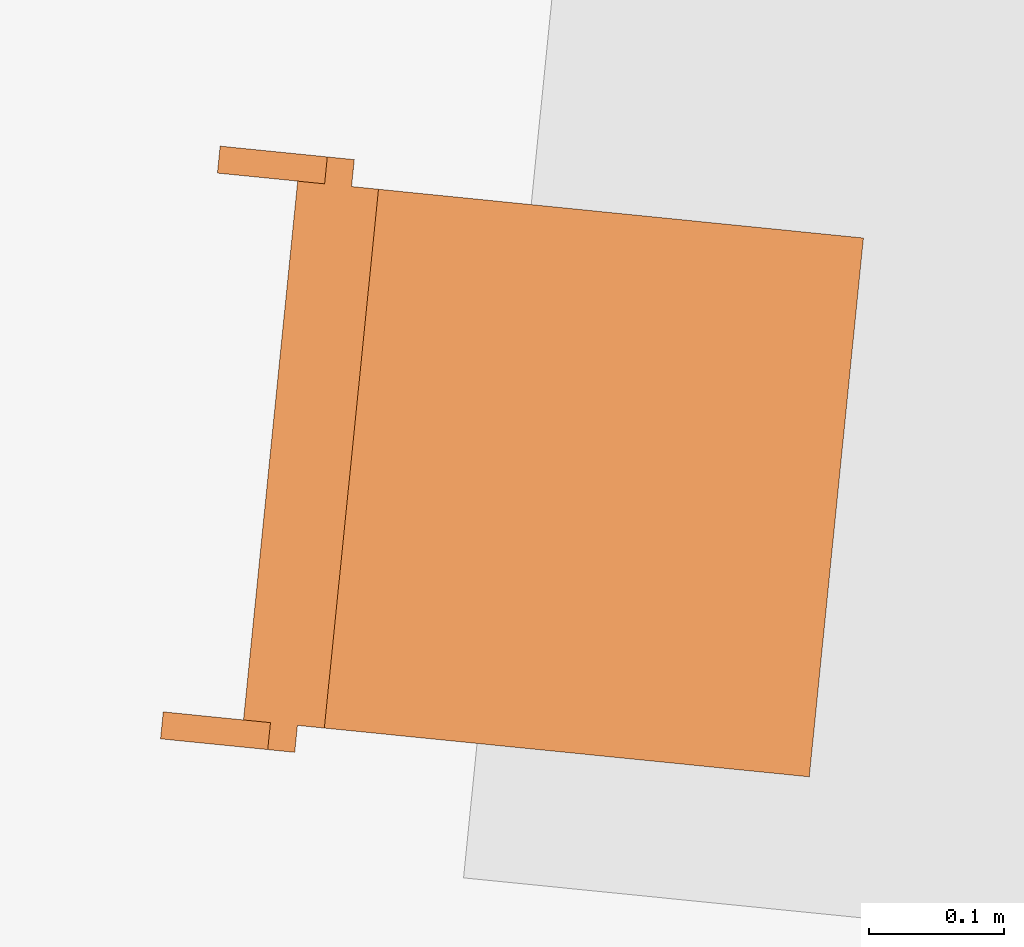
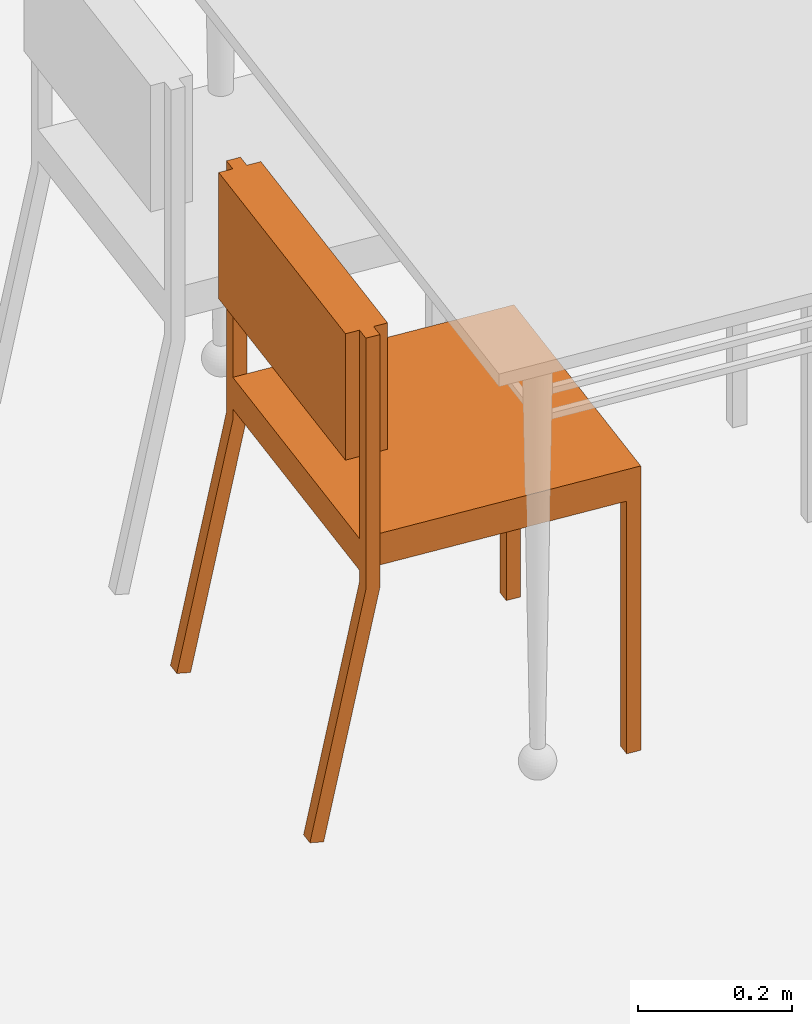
# One storey, part 158 of 164: 1 proxy.
"""IFC2X3 building model written with IfcOpenShell, lengths in millimetres."""

import ifcopenshell
import ifcopenshell.guid

model = None  # the IFC model being written
_history = None  # IfcOwnerHistory: only IFC2X3 demands one
_inside = {}  # id of a spatial element -> (the spatial element, [elements in it])
_under = {}  # id of a project, library or spatial element -> (it, [spatial elements below it])
_declared = {}  # id of a project -> (the project, [libraries it declares])
_typed = {}  # id of a type object -> (the type object, [elements of that type])
_made_of = {}  # id of a material, layer set ... -> (it, [elements and type objects made of it])


def new_model(schema):
    """Start an empty IFC model of exactly this schema.

    Asked for "IFC4X3", IfcOpenShell would pick the latest addendum, in which some entities
    have other attributes; the version numbers below select the first issue.
    IFC2X3 requires an IfcOwnerHistory on every rooted entity: one is made here for all.
    """
    global model, _history
    if schema == "IFC4X3":
        model = ifcopenshell.file(schema_version=(4, 3, 0, 0))
    else:
        model = ifcopenshell.file(schema=schema)
    _inside.clear()
    _under.clear()
    _declared.clear()
    _typed.clear()
    _made_of.clear()
    _history = None
    if model.schema == "IFC2X3":
        org = make("IfcOrganization", Name="unknown")
        user = make(
            "IfcPersonAndOrganization",
            ThePerson=make("IfcPerson", FamilyName="unknown"),
            TheOrganization=org,
        )
        app = make(
            "IfcApplication",
            ApplicationDeveloper=org,
            Version="unknown",
            ApplicationFullName="unknown",
            ApplicationIdentifier="unknown",
        )
        _history = make(
            "IfcOwnerHistory",
            OwningUser=user,
            OwningApplication=app,
            ChangeAction="ADDED",
            CreationDate=0,
        )
    return model


def make(cls, **values):
    """One entity of the class cls with the attributes given. An attribute that is None is left unset."""
    return model.create_entity(
        cls, **{name: value for name, value in values.items() if value is not None}
    )


def entity(cls, *values):
    """Any entity or typed value of the class cls, its attributes in the order of the schema. None: left unset."""
    e = model.create_entity(cls)
    for i, value in enumerate(values):
        if value is not None:
            e[i] = value
    return e


def rooted(cls, **values):
    """An entity with a GlobalId (a new one), such as an element, a storey or a relation."""
    return make(cls, GlobalId=ifcopenshell.guid.new(), OwnerHistory=_history, **values)


def si_unit(unit_type, name, prefix=None):
    """IfcSIUnit, for example si_unit("LENGTHUNIT", "METRE", prefix="MILLI")."""
    return make("IfcSIUnit", UnitType=unit_type, Prefix=prefix, Name=name)


def converted_unit(unit_type, name, factor, base, dimensions=None, offset=None):
    """IfcConversionBasedUnit, such as the inch: factor (a typed value) times the base unit."""
    return make(
        "IfcConversionBasedUnit"
        if offset is None
        else "IfcConversionBasedUnitWithOffset",
        ConversionOffset=offset,
        Dimensions=None
        if dimensions is None
        else entity("IfcDimensionalExponents", *dimensions),
        UnitType=unit_type,
        Name=name,
        ConversionFactor=make(
            "IfcMeasureWithUnit", ValueComponent=factor, UnitComponent=base
        ),
    )


def derived_unit(unit_type, elements):
    """IfcDerivedUnit: a product of units, each with its exponent."""
    return make(
        "IfcDerivedUnit",
        Elements=[
            make("IfcDerivedUnitElement", Unit=unit, Exponent=power)
            for unit, power in elements
        ],
        UnitType=unit_type,
    )


def money_unit(currency):
    """IfcMonetaryUnit."""
    return make("IfcMonetaryUnit", Currency=currency)


def assignment(units):
    """IfcUnitAssignment: the units of a project."""
    return None if units is None else make("IfcUnitAssignment", Units=units)


def point(xyz):
    """IfcCartesianPoint."""
    return None if xyz is None else make("IfcCartesianPoint", Coordinates=xyz)


def direction(xyz):
    """IfcDirection."""
    return None if xyz is None else make("IfcDirection", DirectionRatios=xyz)


def frame(location, z_axis=None, x_axis=None):
    """IfcAxis2Placement3D, a coordinate frame: its origin and axes. An axis left out is left unset."""
    return make(
        "IfcAxis2Placement3D",
        Location=point(location),
        Axis=direction(z_axis),
        RefDirection=direction(x_axis),
    )


def origin_with_axes():
    """The frame at (0, 0, 0) with the z axis (0, 0, 1) and the x axis (1, 0, 0) written out."""
    return frame((0.0, 0.0, 0.0), z_axis=(0.0, 0.0, 1.0), x_axis=(1.0, 0.0, 0.0))


def place(relative_to, where):
    """IfcLocalPlacement: puts the frame where relative to a parent placement (None: the world)."""
    return make(
        "IfcLocalPlacement", PlacementRelTo=relative_to, RelativePlacement=where
    )


def context(
    kind, dimensions, precision=None, world=None, true_north=None, identifier=None
):
    """IfcGeometricRepresentationContext, for example the 3D "Model" context."""
    return make(
        "IfcGeometricRepresentationContext",
        ContextIdentifier=identifier,
        ContextType=kind,
        CoordinateSpaceDimension=dimensions,
        Precision=precision,
        WorldCoordinateSystem=world,
        TrueNorth=true_north,
    )


def subcontext(parent, identifier, kind, view, scale=None):
    """IfcGeometricRepresentationSubContext, for example "Body" below "Model"."""
    return make(
        "IfcGeometricRepresentationSubContext",
        ContextIdentifier=identifier,
        ContextType=kind,
        ParentContext=parent,
        TargetScale=scale,
        TargetView=view,
    )


def project(units=None, contexts=None):
    """IfcProject with its units and contexts."""
    return rooted(
        "IfcProject",
        Name="project",
        RepresentationContexts=contexts,
        UnitsInContext=assignment(units),
    )


def spatial(cls, under=None, at=None, **own):
    """A site, building, storey or space (cls), placed at a placement, below another one or the project."""
    s = rooted(cls, ObjectPlacement=at, **own)
    if under is not None:
        _under.setdefault(under.id(), (under, []))[1].append(s)
    return s


def faces_of(points, faces, orient=None, outer=None):
    """IfcFace entities. A face is a list of loops; a loop is a list of indices into points, from 0.

    orient and outer hold one flag for each loop. By default every Orientation is true, the
    first loop of a face is its IfcFaceOuterBound and the others are IfcFaceBound.
    """
    made = []
    for i, loops in enumerate(faces):
        bounds = []
        for j, loop in enumerate(loops):
            is_outer = j == 0 if outer is None else outer[i][j]
            bounds.append(
                make(
                    "IfcFaceOuterBound" if is_outer else "IfcFaceBound",
                    Bound=make("IfcPolyLoop", Polygon=[points[k] for k in loop]),
                    Orientation=True if orient is None else orient[i][j],
                )
            )
        made.append(make("IfcFace", Bounds=bounds))
    return made


def faceted_brep(points, faces, orient=None, outer=None, voids=None):
    """IfcFacetedBrep: a solid bounded by flat faces; with voids (closed shells), ...WithVoids."""
    shared = [point(p) for p in points]
    hull = make("IfcClosedShell", CfsFaces=faces_of(shared, faces, orient, outer))
    if voids is None:
        return make("IfcFacetedBrep", Outer=hull)
    return make(
        "IfcFacetedBrepWithVoids",
        Outer=hull,
        Voids=[
            make(cls, CfsFaces=faces_of(shared, fs, o, b)) for cls, fs, o, b in voids
        ],
    )


def shape(context_of_items, identifier, shape_type, items):
    """IfcShapeRepresentation: the items that make up one representation, for example the "Body"."""
    return make(
        "IfcShapeRepresentation",
        ContextOfItems=context_of_items,
        RepresentationIdentifier=identifier,
        RepresentationType=shape_type,
        Items=items,
    )


def source(mapping_origin, context_of_items, identifier, shape_type, items):
    """IfcRepresentationMap: a shape defined once, which mapped items show again and again."""
    return make(
        "IfcRepresentationMap",
        MappingOrigin=mapping_origin,
        MappedRepresentation=shape(context_of_items, identifier, shape_type, items),
    )


def transform(
    local_origin,
    x_axis=None,
    y_axis=None,
    z_axis=None,
    scale=None,
    scale2=None,
    scale3=None,
    uniform=True,
):
    """IfcCartesianTransformationOperator3D, or its non-uniform kind. x_axis, y_axis, z_axis: its Axis1, 2, 3."""
    if uniform:
        return make(
            "IfcCartesianTransformationOperator3D",
            Axis1=direction(x_axis),
            Axis2=direction(y_axis),
            LocalOrigin=point(local_origin),
            Scale=scale,
            Axis3=direction(z_axis),
        )
    return make(
        "IfcCartesianTransformationOperator3DnonUniform",
        Axis1=direction(x_axis),
        Axis2=direction(y_axis),
        LocalOrigin=point(local_origin),
        Scale=scale,
        Axis3=direction(z_axis),
        Scale2=scale2,
        Scale3=scale3,
    )


def mapped(mapping_source, mapping_target):
    """IfcMappedItem: shows the shape of a source again, moved by a transform."""
    return make(
        "IfcMappedItem", MappingSource=mapping_source, MappingTarget=mapping_target
    )


def made_of(thing, what):
    """Note that an element or type object is made of a material, layer set ...; save() writes the relation."""
    if what is not None:
        _made_of.setdefault(what.id(), (what, []))[1].append(thing)
    return thing


def type_object(cls, material=None, **own):
    """A type object (cls), such as IfcWallType, which elements share."""
    return made_of(rooted(cls, **own), material)


def element(
    cls,
    number,
    at=None,
    inside=None,
    cuts=None,
    type_object=None,
    material=None,
    context=None,
    identifier="Body",
    shape_type=None,
    held_by="IfcProductDefinitionShape",
    body=None,
    shapes=None,
    **own,
):
    """One element of the class cls, such as IfcWall. Its Tag is "e" and its number.

    at: its placement. inside: the storey or other place that contains it. cuts: it is an
    opening in that element (IfcRelVoidsElement). A single representation is given by context,
    identifier, shape_type and body (its items); several are given by shapes. held_by: the class
    of the entity that holds the representations. save() writes the other relations.
    """
    e = rooted(cls, Tag="e%d" % number, ObjectPlacement=at, **own)
    if body is not None:
        shapes = [shape(context, identifier, shape_type, body)]
    if shapes is not None:
        e.Representation = make(held_by, Representations=shapes)
    if inside is not None:
        _inside.setdefault(inside.id(), (inside, []))[1].append(e)
    if cuts is not None:
        rooted(
            "IfcRelVoidsElement", RelatingBuildingElement=cuts, RelatedOpeningElement=e
        )
    if type_object is not None:
        _typed.setdefault(type_object.id(), (type_object, []))[1].append(e)
    return made_of(e, material)


def aggregate(whole, parts):
    """IfcRelAggregates: a whole, such as a stair, and the parts it consists of."""
    return rooted("IfcRelAggregates", RelatingObject=whole, RelatedObjects=parts)


def save(model, path):
    """Write the relations noted so far, then the file.

    IfcRelAggregates (storeys below a building ...), IfcRelContainedInSpatialStructure (elements
    in a storey), IfcRelDefinesByType, IfcRelAssociatesMaterial and IfcRelDeclares: one each for
    every whole, place, type object, material and project.
    """
    for whole, parts in _under.values():
        aggregate(whole, parts)
    for where, things in _inside.values():
        rooted(
            "IfcRelContainedInSpatialStructure",
            RelatedElements=things,
            RelatingStructure=where,
        )
    for kind, things in _typed.values():
        rooted("IfcRelDefinesByType", RelatedObjects=things, RelatingType=kind)
    for what, things in _made_of.values():
        rooted("IfcRelAssociatesMaterial", RelatedObjects=things, RelatingMaterial=what)
    for by, libraries in _declared.values():
        rooted("IfcRelDeclares", RelatingContext=by, RelatedDefinitions=libraries)
    model.write(path)


model = new_model("IFC2X3")

# Units and contexts
model_context = context("Model", 3, precision=0.01, world=origin_with_axes(), true_north=direction((0.0, 1.0)))
body_context = subcontext(model_context, "Body", "Model", "MODEL_VIEW")
ifc_project = project(units=[si_unit("LENGTHUNIT", "METRE", prefix="MILLI"), si_unit("AREAUNIT", "SQUARE_METRE"), si_unit("VOLUMEUNIT", "CUBIC_METRE"), converted_unit("PLANEANGLEUNIT", "DEGREE", entity("IfcPlaneAngleMeasure", 0.0174532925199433), si_unit("PLANEANGLEUNIT", "RADIAN"), dimensions=[0, 0, 0, 0, 0, 0, 0]), money_unit("USD"), converted_unit("TIMEUNIT", "Year", entity("IfcTimeMeasure", 31557600.0), si_unit("TIMEUNIT", "SECOND"), dimensions=[0, 0, 1, 0, 0, 0, 0]), si_unit("MASSUNIT", "GRAM", prefix="KILO"), si_unit("THERMODYNAMICTEMPERATUREUNIT", "DEGREE_CELSIUS"), si_unit("LUMINOUSINTENSITYUNIT", "LUMEN"), si_unit("ENERGYUNIT", "JOULE", prefix="MEGA"), derived_unit("THERMALCONDUCTANCEUNIT", [(si_unit("POWERUNIT", "WATT"), 1), (si_unit("LENGTHUNIT", "METRE"), -1), (si_unit("THERMODYNAMICTEMPERATUREUNIT", "KELVIN"), -1)]), derived_unit("SPECIFICHEATCAPACITYUNIT", [(si_unit("ENERGYUNIT", "JOULE"), 1), (si_unit("MASSUNIT", "GRAM", prefix="KILO"), -1), (si_unit("THERMODYNAMICTEMPERATUREUNIT", "KELVIN"), -1)]), derived_unit("MASSDENSITYUNIT", [(si_unit("MASSUNIT", "GRAM", prefix="KILO"), 1), (si_unit("VOLUMEUNIT", "CUBIC_METRE"), -1)])], contexts=[model_context])

# Site, building, storey
site_placement = place(None, origin_with_axes())
site = spatial("IfcSite", under=ifc_project, at=site_placement, Name="Site", CompositionType="ELEMENT")
building_placement = place(site_placement, origin_with_axes())
building = spatial("IfcBuilding", under=site, at=building_placement, Name="Bâtiment", CompositionType="ELEMENT")
storey_placement = place(building_placement, frame((0.0, 0.0, 5750.0), z_axis=(0.0, 0.0, 1.0), x_axis=(1.0, 0.0, 0.0)))
storey = spatial("IfcBuildingStorey", under=building, at=storey_placement, Name="Etage1", CompositionType="ELEMENT", Elevation=5750.0)

# Proxy
building_element_proxy_type = type_object("IfcBuildingElementProxyType", PredefinedType="NOTDEFINED")
shared_shape = source(origin_with_axes(), body_context, "Body", "Brep", [
    faceted_brep([(39.99999978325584, 0.0, 0.0), (19.99999989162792, 0.0, 0.0), (19.99999989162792, 19.99999936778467, 0.0), (39.99999978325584, 19.99999936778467, 0.0), (39.99999978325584, 0.0, 400.0), (19.99999989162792, 0.0, 400.0), (19.99999989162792, 19.99999936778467, 400.0), (39.99999978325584, 19.99999936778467, 400.0)], [[[0, 1, 2, 3]], [[1, 0, 4, 5]], [[2, 1, 5, 6]], [[3, 2, 6, 7]], [[0, 3, 7, 4]], [[5, 4, 7, 6]]]),
    faceted_brep([(419.9999977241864, 0.0, 0.0), (399.9999978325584, 0.0, 0.0), (399.9999978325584, 19.99999936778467, 0.0), (419.9999977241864, 19.99999936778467, 0.0), (419.9999977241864, 0.0, 400.0), (399.9999978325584, 0.0, 400.0), (399.9999978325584, 19.99999936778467, 400.0), (419.9999977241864, 19.99999936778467, 400.0)], [[[0, 1, 2, 3]], [[1, 0, 4, 5]], [[2, 1, 5, 6]], [[3, 2, 6, 7]], [[0, 3, 7, 4]], [[5, 4, 7, 6]]]),
    faceted_brep([(399.9999978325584, 0.0, 400.0000000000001), (39.99999978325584, 0.0, 400.0000000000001), (39.99999978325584, 19.99999936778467, 400.0000000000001), (399.9999978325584, 19.99999936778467, 400.0000000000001), (399.9999978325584, 0.0, 420.0000000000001), (39.99999978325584, 0.0, 420.0000000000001), (39.99999978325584, 19.99999936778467, 420.0000000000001), (399.9999978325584, 19.99999936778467, 420.0000000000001)], [[[0, 1, 2, 3]], [[1, 0, 4, 5]], [[2, 1, 5, 6]], [[3, 2, 6, 7]], [[0, 3, 7, 4]], [[5, 4, 7, 6]]]),
    faceted_brep([(39.99999978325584, 19.99999936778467, 400.0000000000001), (19.99999989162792, 19.99999936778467, 400.0000000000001), (19.99999989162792, 379.9999879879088, 400.0000000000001), (39.99999978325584, 379.9999879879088, 400.0000000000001), (39.99999978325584, 19.99999936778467, 420.0000000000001), (19.99999989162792, 19.99999936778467, 420.0000000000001), (19.99999989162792, 379.9999879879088, 420.0000000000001), (39.99999978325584, 379.9999879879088, 420.0000000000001)], [[[0, 1, 2, 3]], [[1, 0, 4, 5]], [[2, 1, 5, 6]], [[3, 2, 6, 7]], [[0, 3, 7, 4]], [[5, 4, 7, 6]]]),
    faceted_brep([(419.9999977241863, 379.9999879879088, 400.0000000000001), (19.99999989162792, 379.9999879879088, 400.0000000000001), (19.99999989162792, 399.9999873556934, 400.0000000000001), (419.9999977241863, 399.9999873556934, 400.0000000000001), (419.9999977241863, 379.9999879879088, 420.0000000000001), (19.99999989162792, 379.9999879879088, 420.0000000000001), (19.99999989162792, 399.9999873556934, 420.0000000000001), (419.9999977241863, 399.9999873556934, 420.0000000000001)], [[[0, 1, 2, 3]], [[1, 0, 4, 5]], [[2, 1, 5, 6]], [[3, 2, 6, 7]], [[0, 3, 7, 4]], [[5, 4, 7, 6]]]),
    faceted_brep([(419.9999977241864, 19.99999936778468, 400.0000000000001), (399.9999978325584, 19.99999936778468, 400.0000000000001), (399.9999978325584, 379.9999879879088, 400.0000000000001), (419.9999977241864, 379.9999879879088, 400.0000000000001), (419.9999977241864, 19.99999936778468, 420.0000000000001), (399.9999978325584, 19.99999936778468, 420.0000000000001), (399.9999978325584, 379.9999879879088, 420.0000000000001), (419.9999977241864, 379.9999879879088, 420.0000000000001)], [[[0, 1, 2, 3]], [[1, 0, 4, 5]], [[2, 1, 5, 6]], [[3, 2, 6, 7]], [[0, 3, 7, 4]], [[5, 4, 7, 6]]]),
    faceted_brep([(419.9999977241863, 0.0, 400.0), (19.99999989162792, 0.0, 400.0), (19.99999989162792, 399.9999873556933, 400.0), (419.9999977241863, 399.9999873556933, 400.0), (419.9999977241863, 0.0, 450.0), (19.99999989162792, 0.0, 450.0), (19.99999989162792, 399.9999873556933, 450.0), (419.9999977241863, 399.9999873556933, 450.0)], [[[0, 1, 2, 3]], [[1, 0, 4, 5]], [[2, 1, 5, 6]], [[3, 2, 6, 7]], [[0, 3, 7, 4]], [[5, 4, 7, 6]]]),
    faceted_brep([(19.99999989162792, 379.9999879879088, 380.0), (0.0, 379.9999879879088, 380.0), (0.0, 399.9999873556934, 380.0), (19.99999989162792, 399.9999873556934, 380.0), (19.99999989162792, 379.9999879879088, 780.0), (0.0, 379.9999879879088, 780.0), (0.0, 399.9999873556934, 780.0), (19.99999989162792, 399.9999873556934, 780.0)], [[[0, 1, 2, 3]], [[1, 0, 4, 5]], [[2, 1, 5, 6]], [[3, 2, 6, 7]], [[0, 3, 7, 4]], [[5, 4, 7, 6]]]),
    faceted_brep([(439.9999976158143, 379.9999879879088, 380.0), (419.9999977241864, 379.9999879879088, 380.0), (419.9999977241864, 399.9999873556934, 380.0), (439.9999976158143, 399.9999873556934, 380.0), (439.9999976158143, 379.9999879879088, 780.0), (419.9999977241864, 379.9999879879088, 780.0), (419.9999977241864, 399.9999873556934, 780.0), (439.9999976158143, 399.9999873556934, 780.0)], [[[0, 1, 2, 3]], [[1, 0, 4, 5]], [[2, 1, 5, 6]], [[3, 2, 6, 7]], [[0, 3, 7, 4]], [[5, 4, 7, 6]]]),
    faceted_brep([(419.9999977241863, 359.999988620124, 580.0000000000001), (19.99999989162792, 359.999988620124, 580.0000000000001), (19.99999989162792, 419.9999867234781, 580.0000000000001), (419.9999977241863, 419.9999867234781, 580.0000000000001), (419.9999977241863, 359.999988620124, 780.0), (19.99999989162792, 359.999988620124, 780.0), (19.99999989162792, 419.9999867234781, 780.0), (419.9999977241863, 419.9999867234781, 780.0)], [[[0, 1, 2, 3]], [[1, 0, 4, 5]], [[2, 1, 5, 6]], [[3, 2, 6, 7]], [[0, 3, 7, 4]], [[5, 4, 7, 6]]]),
    faceted_brep([(19.99999989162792, 459.9999854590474, 0.0), (0.0, 459.9999854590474, 0.0), (0.0, 479.5709559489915, 4.120326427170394), (19.99999989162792, 479.5709559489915, 4.120326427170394), (19.99999989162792, 379.997669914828, 379.999760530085), (0.0, 379.997669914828, 379.999760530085), (0.0, 399.5686404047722, 384.1200869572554), (19.99999989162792, 399.5686404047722, 384.1200869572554)], [[[0, 1, 2, 3]], [[1, 0, 4, 5]], [[2, 1, 5, 6]], [[3, 2, 6, 7]], [[0, 3, 7, 4]], [[5, 4, 7, 6]]]),
    faceted_brep([(439.9999976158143, 459.9999854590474, 0.0), (419.9999977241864, 459.9999854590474, 0.0), (419.9999977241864, 479.5709559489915, 4.120326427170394), (439.9999976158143, 479.5709559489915, 4.120326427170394), (439.9999976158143, 379.997669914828, 379.999760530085), (419.9999977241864, 379.997669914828, 379.999760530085), (419.9999977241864, 399.5686404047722, 384.1200869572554), (439.9999976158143, 399.5686404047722, 384.1200869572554)], [[[0, 1, 2, 3]], [[1, 0, 4, 5]], [[2, 1, 5, 6]], [[3, 2, 6, 7]], [[0, 3, 7, 4]], [[5, 4, 7, 6]]]),
])
proxy_placement = place(storey_placement, frame((2222697.304805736, -606747.7726902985, 0.0), z_axis=(0.0, 0.0, 1.0), x_axis=(0.1000048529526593, 0.9949869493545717, 0.0)))
element("IfcBuildingElementProxy", 1, at=proxy_placement, inside=storey, type_object=building_element_proxy_type, Name="Obj.-027", context=body_context, shape_type="MappedRepresentation", body=[
    mapped(shared_shape, transform((0.0, 0.0, 0.0))),
])

save(model, "model.ifc")
